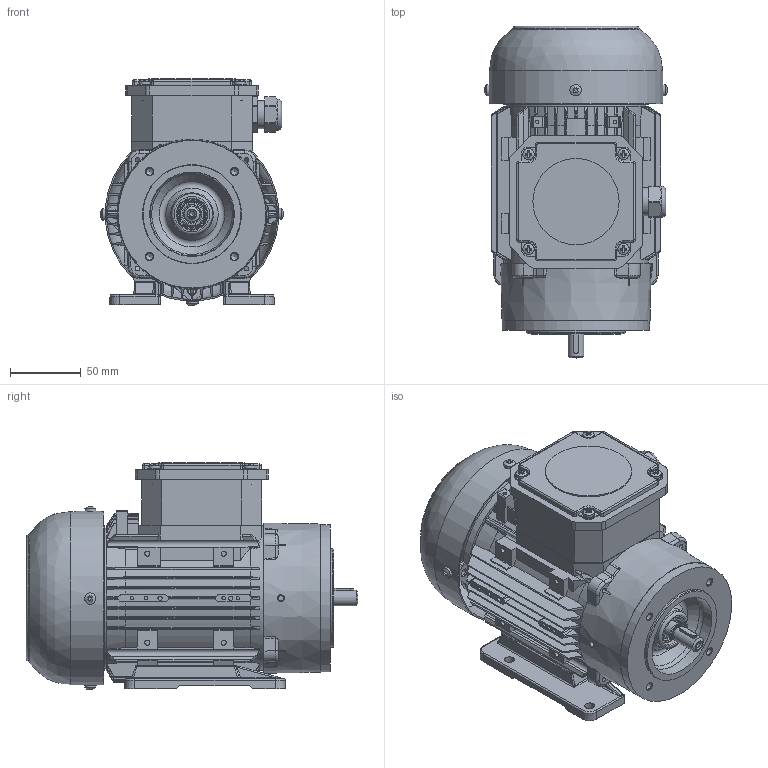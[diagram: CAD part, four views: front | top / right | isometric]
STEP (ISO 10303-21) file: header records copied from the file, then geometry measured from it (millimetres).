
FILE_DESCRIPTION(/* description */ (''),/* implementation_level */ '2;1');
FILE_NAME(/* name */ 'OUTLOOK VIEW QH63 PC B34- BIGGER FT85 SPL.stp',/* time_stamp */ '2021-09-21T10:59:41+03:00',/* author */ (''),/* organization */ (''),/* preprocessor_version */ 'ST-DEVELOPER v16',/* originating_system */ 'SIEMENS PLM Software NX 11.0',/* authorisation */ '');
FILE_SCHEMA (('AUTOMOTIVE_DESIGN { 1 0 10303 214 3 1 1 1 }'));
Products named in the file (1): 260652D491E0rv3m
Bounding box: 129.21 x 234.84 x 160.6 mm (x, y, z)
Volume: 647079.4 mm3; surface area: 402057.1 mm2
Topology: 41 solids, 43 shells, 3056 faces, 7916 edges, 4935 vertices
Faces by surface type: plane 1213, cylinder 986, bspline 388, cone 239, torus 119, sphere 94, extrusion 17
Full cylindrical faces by diameter (mm): 1.7 x2, 2.5 x12, 3 x4, 3.15 x1, 3.3 x10, 3.65 x14, 4 x9, 4.3 x1, 4.5 x4, 4.65 x4, 4.8 x4, 5 x8, 5.1 x1, 5.5 x1, 8 x9, 10.4 x1, 11 x2, 11.4 x2, 11.5 x1, 12 x5, 12.2 x1, 12.5 x1, 13 x1, 14.5 x1, 15.5 x2, 18 x1, 18.45 x8, 18.5 x1, 18.9 x1, 19.1 x2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
Entity records: 103811 total; most frequent: CARTESIAN_POINT 28798, ORIENTED_EDGE 14652, DIRECTION 14128, EDGE_CURVE 7326, AXIS2_PLACEMENT_3D 5439, VERTEX_POINT 4826, EDGE_LOOP 3684, VECTOR 3250
